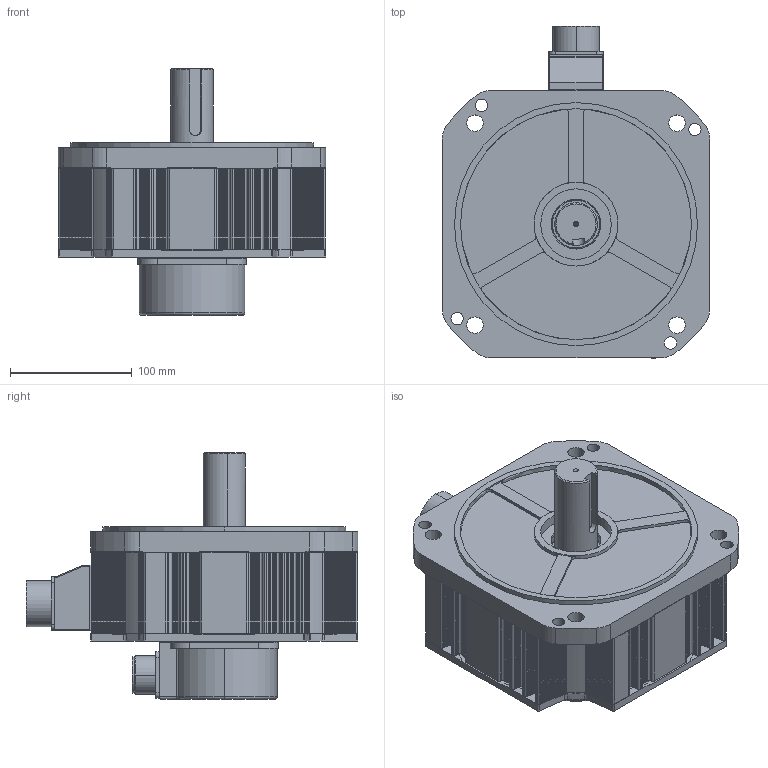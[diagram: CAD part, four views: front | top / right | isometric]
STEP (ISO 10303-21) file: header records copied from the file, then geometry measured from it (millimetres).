
FILE_DESCRIPTION (( 'STEP AP203' ), '1' );
FILE_NAME ('KANF-25G¡à9N2.STEP', '2026-09-12T00:51:55', ( '' ), ( '' ), 'SwSTEP 2.0', 'SolidWorks 2023', '' );
FILE_SCHEMA (( 'CONFIG_CONTROL_DESIGN' ));
Length unit declared in the file: millimetre
Products named in the file (11): □220-69.5mm(2.5kW,NB); 10050532 GASKET_미돌출형; □220 BRACKET_BR; □220 FLANGE; MS3102A 20-29P; MS3102A 24-11P_표준; Ø35-KEY10X50; 1005053102 ENCODER COVER; KANF-25G□9N2; 10050907 RUBBER SEAL_MS22 or MS24; 10050908 CONNECTOR BOX_MS22 or MS24
Assembly tree (10 placements, depth 2):
  KANF-25G□9N2
    □220 FLANGE
    □220 BRACKET_BR
    10050532 GASKET_미돌출형
    1005053102 ENCODER COVER
    MS3102A 20-29P
    10050907 RUBBER SEAL_MS22 or MS24
    10050908 CONNECTOR BOX_MS22 or MS24
    MS3102A 24-11P_표준
    Ø35-KEY10X50
    □220-69.5mm(2.5kW,NB)
Bounding box: 220 x 273.12 x 203 mm (x, y, z)
Volume: 1448569.5 mm3; surface area: 489447.4 mm2
Topology: 10 solids, 10 shells, 2020 faces, 5772 edges, 3812 vertices
Faces by surface type: plane 1184, cylinder 732, cone 54, bspline 35, torus 13, sphere 2
Entity records: 68895 total; most frequent: CARTESIAN_POINT 13760, ORIENTED_EDGE 11492, DIRECTION 11204, EDGE_CURVE 5746, VECTOR 3982, LINE 3982, VERTEX_POINT 3812, AXIS2_PLACEMENT_3D 3611
